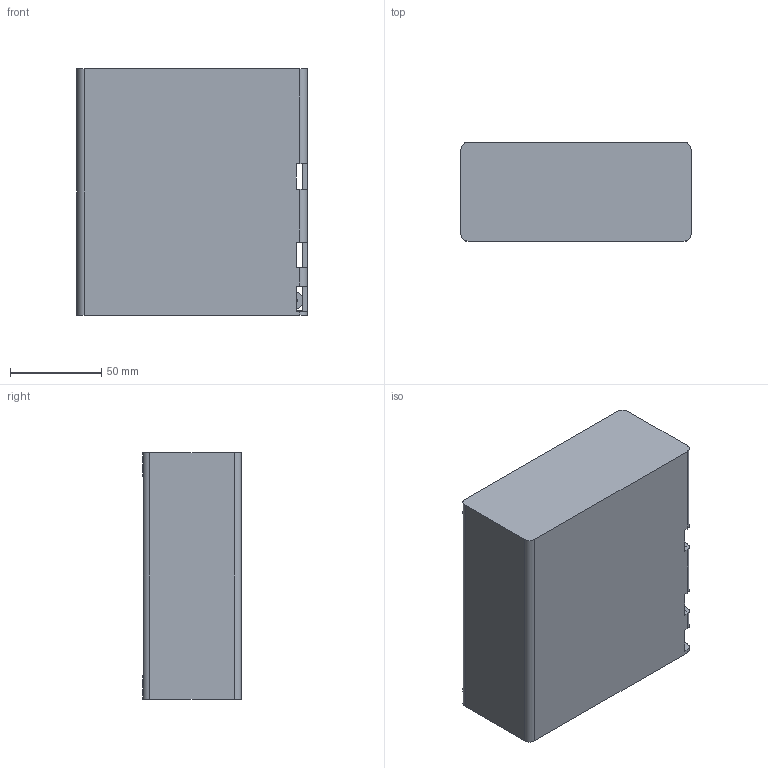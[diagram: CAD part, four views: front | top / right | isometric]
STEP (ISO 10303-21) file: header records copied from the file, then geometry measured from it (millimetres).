
FILE_DESCRIPTION(('FreeCAD Model'),'2;1');
FILE_NAME('Open CASCADE Shape Model','2026-11-06T11:24:15',('FreeCAD'),( 'FreeCAD'),'Open CASCADE STEP processor 7.8','FreeCAD','Unknown');
FILE_SCHEMA(('AUTOMOTIVE_DESIGN { 1 0 10303 214 1 1 1 1 }'));
Length unit declared in the file: millimetre
Products named in the file (1): Open CASCADE STEP translator 7.8 18
Bounding box: 126 x 54 x 135 mm (x, y, z)
Volume: 107363.7 mm3; surface area: 92409.3 mm2
Topology: 1 solids, 1 shells, 90 faces, 258 edges, 172 vertices
Faces by surface type: plane 72, cylinder 18
Full cylindrical faces by diameter (mm): 3.4 x4, 3.6 x2, 9 x1, 9.6 x4
Entity records: 3116 total; most frequent: CARTESIAN_POINT 669, ORIENTED_EDGE 516, DIRECTION 480, EDGE_CURVE 258, LINE 210, VECTOR 210, VERTEX_POINT 172, AXIS2_PLACEMENT_3D 135
